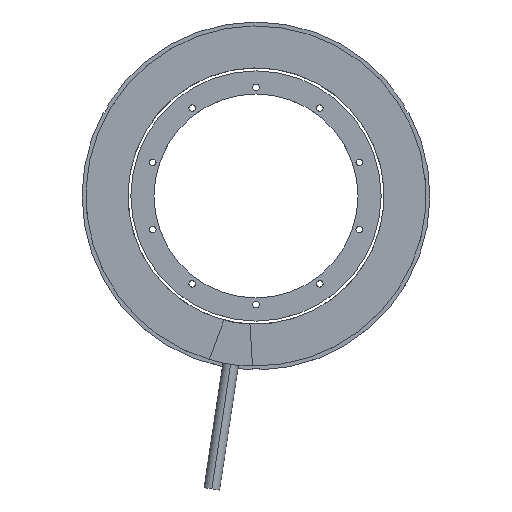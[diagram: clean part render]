
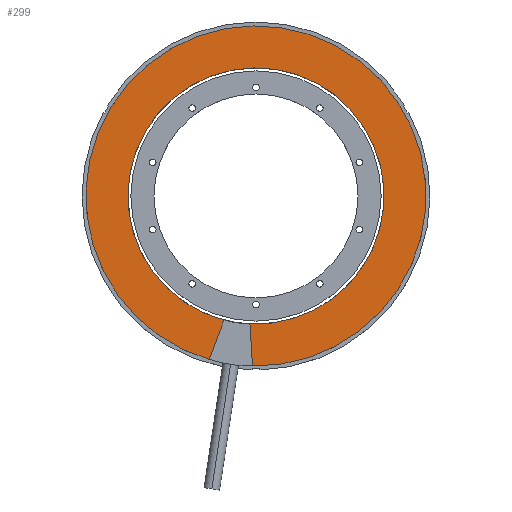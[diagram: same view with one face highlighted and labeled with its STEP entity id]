
A CAD part, top view. The second image highlights one B-rep face of the part: STEP entity #299.
In plain terms, the highlighted planar face has unit normal (0, 0, 1).
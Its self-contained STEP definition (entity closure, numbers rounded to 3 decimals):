
#54 = CARTESIAN_POINT ( 'NONE',  ( 42.613, 160.738, 170.696 ) ) ;
#200 = EDGE_LOOP ( 'NONE', ( #302, #3663, #2781, #1775, #2668, #4855 ) ) ;
#241 = EDGE_CURVE ( 'NONE', #517, #2722, #2397, .T. ) ;
#299 = ADVANCED_FACE ( 'NONE', ( #3605 ), #2344, .T. ) ;
#302 = ORIENTED_EDGE ( 'NONE', *, *, #241, .F. ) ;
#338 = CIRCLE ( 'NONE', #4580, 48.95 ) ;
#517 = VERTEX_POINT ( 'NONE', #709 ) ;
#705 = EDGE_CURVE ( 'NONE', #2722, #2179, #4751, .T. ) ;
#709 = CARTESIAN_POINT ( 'NONE',  ( 33.944, 47.35, 170.696 ) ) ;
#711 = LINE ( 'NONE', #2293, #2355 ) ;
#830 = CARTESIAN_POINT ( 'NONE',  ( 35.307, 112.336, 170.696 ) ) ;
#876 = DIRECTION ( 'NONE',  ( -0.149, -0.989, 0. ) ) ;
#903 = CIRCLE ( 'NONE', #4253, 65. ) ;
#1127 = EDGE_CURVE ( 'NONE', #517, #4984, #2045, .T. ) ;
#1257 = CARTESIAN_POINT ( 'NONE',  ( 35.307, 112.336, 170.696 ) ) ;
#1281 = DIRECTION ( 'NONE',  ( -0.149, -0.989, 0. ) ) ;
#1390 = DIRECTION ( 'NONE',  ( 0.149, 0.989, 0. ) ) ;
#1567 = DIRECTION ( 'NONE',  ( 0., 0., 1. ) ) ;
#1598 = DIRECTION ( 'NONE',  ( 0., 0., 1. ) ) ;
#1660 = AXIS2_PLACEMENT_3D ( 'NONE', #3108, #1567, #1281 ) ;
#1775 = ORIENTED_EDGE ( 'NONE', *, *, #3452, .F. ) ;
#1821 = EDGE_CURVE ( 'NONE', #2179, #3238, #338, .T. ) ;
#2021 = CARTESIAN_POINT ( 'NONE',  ( 35.307, 112.336, 170.696 ) ) ;
#2045 = CIRCLE ( 'NONE', #2704, 65. ) ;
#2179 = VERTEX_POINT ( 'NONE', #54 ) ;
#2293 = CARTESIAN_POINT ( 'NONE',  ( 23.095, 64.933, 170.696 ) ) ;
#2344 = PLANE ( 'NONE',  #3209 ) ;
#2355 = VECTOR ( 'NONE', #3821, 1000. ) ;
#2397 = LINE ( 'NONE', #4684, #3498 ) ;
#2428 = DIRECTION ( 'NONE',  ( 0., 0., 1. ) ) ;
#2668 = ORIENTED_EDGE ( 'NONE', *, *, #1821, .F. ) ;
#2704 = AXIS2_PLACEMENT_3D ( 'NONE', #1257, #4373, #876 ) ;
#2722 = VERTEX_POINT ( 'NONE', #3616 ) ;
#2727 = DIRECTION ( 'NONE',  ( -0.149, -0.989, 0. ) ) ;
#2774 = CARTESIAN_POINT ( 'NONE',  ( 23.095, 64.933, 170.696 ) ) ;
#2781 = ORIENTED_EDGE ( 'NONE', *, *, #2809, .T. ) ;
#2809 = EDGE_CURVE ( 'NONE', #4984, #3337, #903, .T. ) ;
#3108 = CARTESIAN_POINT ( 'NONE',  ( 35.307, 112.336, 170.696 ) ) ;
#3209 = AXIS2_PLACEMENT_3D ( 'NONE', #830, #3288, #1390 ) ;
#3238 = VERTEX_POINT ( 'NONE', #2774 ) ;
#3288 = DIRECTION ( 'NONE',  ( 0., 0., 1. ) ) ;
#3337 = VERTEX_POINT ( 'NONE', #4865 ) ;
#3452 = EDGE_CURVE ( 'NONE', #3238, #3337, #711, .T. ) ;
#3498 = VECTOR ( 'NONE', #3918, 1000. ) ;
#3565 = DIRECTION ( 'NONE',  ( -0.149, -0.989, 0. ) ) ;
#3605 = FACE_OUTER_BOUND ( 'NONE', #200, .T. ) ;
#3616 = CARTESIAN_POINT ( 'NONE',  ( 32.983, 63.441, 170.696 ) ) ;
#3663 = ORIENTED_EDGE ( 'NONE', *, *, #1127, .T. ) ;
#3821 = DIRECTION ( 'NONE',  ( -0.352, -0.936, 0. ) ) ;
#3918 = DIRECTION ( 'NONE',  ( -0.06, 0.998, 0. ) ) ;
#4106 = CARTESIAN_POINT ( 'NONE',  ( 45.008, 176.608, 170.696 ) ) ;
#4253 = AXIS2_PLACEMENT_3D ( 'NONE', #2021, #2428, #3565 ) ;
#4373 = DIRECTION ( 'NONE',  ( 0., 0., 1. ) ) ;
#4580 = AXIS2_PLACEMENT_3D ( 'NONE', #4683, #1598, #2727 ) ;
#4683 = CARTESIAN_POINT ( 'NONE',  ( 35.307, 112.336, 170.696 ) ) ;
#4684 = CARTESIAN_POINT ( 'NONE',  ( 32.983, 63.441, 170.696 ) ) ;
#4751 = CIRCLE ( 'NONE', #1660, 48.95 ) ;
#4855 = ORIENTED_EDGE ( 'NONE', *, *, #705, .F. ) ;
#4865 = CARTESIAN_POINT ( 'NONE',  ( 17.428, 49.843, 170.696 ) ) ;
#4984 = VERTEX_POINT ( 'NONE', #4106 ) ;
